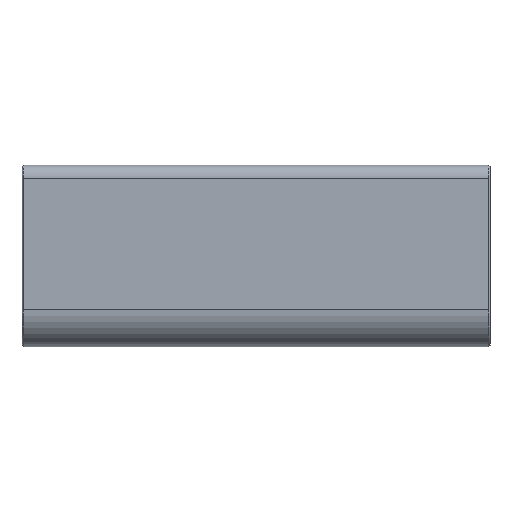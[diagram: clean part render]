
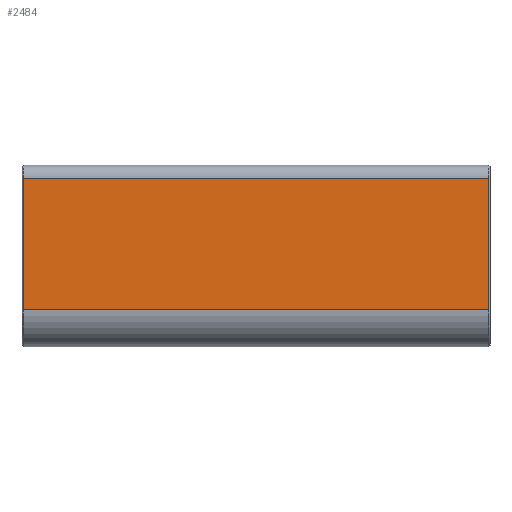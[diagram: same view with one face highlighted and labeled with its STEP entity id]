
A CAD part, top view. The second image highlights one B-rep face of the part: STEP entity #2484.
In plain terms, the highlighted planar face has unit normal (0, 0, 1).
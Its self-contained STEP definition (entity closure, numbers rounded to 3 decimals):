
#1119 = PLANE('',#1120);
#1120 = AXIS2_PLACEMENT_3D('',#1121,#1122,#1123);
#1121 = CARTESIAN_POINT('',(-44.4,-25.5,1.9));
#1122 = DIRECTION('',(0.707,0.,-0.707)
  );
#1123 = DIRECTION('',(0.,-1.,0.));
#1434 = PLANE('',#1435);
#1435 = AXIS2_PLACEMENT_3D('',#1436,#1437,#1438);
#1436 = CARTESIAN_POINT('',(44.4,-25.5,1.9));
#1437 = DIRECTION('',(0.707,0.,0.707));
#1438 = DIRECTION('',(0.,-1.,0.));
#1568 = CYLINDRICAL_SURFACE('',#1569,2.5);
#1569 = AXIS2_PLACEMENT_3D('',#1570,#1571,#1572);
#1570 = CARTESIAN_POINT('',(-44.5,-0.5,-0.5));
#1571 = DIRECTION('',(-1.,-0.,0.));
#1572 = DIRECTION('',(0.,1.,0.));
#1783 = VERTEX_POINT('',#1784);
#1784 = CARTESIAN_POINT('',(-44.3,-25.5,2.));
#1799 = CYLINDRICAL_SURFACE('',#1800,7.);
#1800 = AXIS2_PLACEMENT_3D('',#1801,#1802,#1803);
#1801 = CARTESIAN_POINT('',(-44.5,-25.5,-5.));
#1802 = DIRECTION('',(-1.,0.,0.));
#1803 = DIRECTION('',(0.,0.,1.));
#1893 = EDGE_CURVE('',#1783,#1894,#1896,.T.);
#1894 = VERTEX_POINT('',#1895);
#1895 = CARTESIAN_POINT('',(-44.3,-0.5,2.));
#1896 = SURFACE_CURVE('',#1897,(#1901,#1908),.PCURVE_S1.);
#1897 = LINE('',#1898,#1899);
#1898 = CARTESIAN_POINT('',(-44.3,-25.5,2.));
#1899 = VECTOR('',#1900,1.);
#1900 = DIRECTION('',(0.,1.,0.));
#1901 = PCURVE('',#1119,#1902);
#1902 = DEFINITIONAL_REPRESENTATION('',(#1903),#1907);
#1903 = LINE('',#1904,#1905);
#1904 = CARTESIAN_POINT('',(-0.,-0.141));
#1905 = VECTOR('',#1906,1.);
#1906 = DIRECTION('',(-1.,0.));
#1907 = ( GEOMETRIC_REPRESENTATION_CONTEXT(2) 
PARAMETRIC_REPRESENTATION_CONTEXT() REPRESENTATION_CONTEXT('2D SPACE',''
  ) );
#1908 = PCURVE('',#1909,#1914);
#1909 = PLANE('',#1910);
#1910 = AXIS2_PLACEMENT_3D('',#1911,#1912,#1913);
#1911 = CARTESIAN_POINT('',(-44.5,-25.5,2.));
#1912 = DIRECTION('',(0.,0.,1.));
#1913 = DIRECTION('',(0.,1.,0.));
#1914 = DEFINITIONAL_REPRESENTATION('',(#1915),#1919);
#1915 = LINE('',#1916,#1917);
#1916 = CARTESIAN_POINT('',(0.,-0.2));
#1917 = VECTOR('',#1918,1.);
#1918 = DIRECTION('',(1.,0.));
#1919 = ( GEOMETRIC_REPRESENTATION_CONTEXT(2) 
PARAMETRIC_REPRESENTATION_CONTEXT() REPRESENTATION_CONTEXT('2D SPACE',''
  ) );
#2103 = VERTEX_POINT('',#2104);
#2104 = CARTESIAN_POINT('',(44.3,-25.5,2.));
#2203 = EDGE_CURVE('',#2103,#2204,#2206,.T.);
#2204 = VERTEX_POINT('',#2205);
#2205 = CARTESIAN_POINT('',(44.3,-0.5,2.));
#2206 = SURFACE_CURVE('',#2207,(#2211,#2218),.PCURVE_S1.);
#2207 = LINE('',#2208,#2209);
#2208 = CARTESIAN_POINT('',(44.3,-25.5,2.));
#2209 = VECTOR('',#2210,1.);
#2210 = DIRECTION('',(0.,1.,0.));
#2211 = PCURVE('',#1434,#2212);
#2212 = DEFINITIONAL_REPRESENTATION('',(#2213),#2217);
#2213 = LINE('',#2214,#2215);
#2214 = CARTESIAN_POINT('',(-0.,-0.141));
#2215 = VECTOR('',#2216,1.);
#2216 = DIRECTION('',(-1.,0.));
#2217 = ( GEOMETRIC_REPRESENTATION_CONTEXT(2) 
PARAMETRIC_REPRESENTATION_CONTEXT() REPRESENTATION_CONTEXT('2D SPACE',''
  ) );
#2218 = PCURVE('',#1909,#2219);
#2219 = DEFINITIONAL_REPRESENTATION('',(#2220),#2224);
#2220 = LINE('',#2221,#2222);
#2221 = CARTESIAN_POINT('',(0.,-88.8));
#2222 = VECTOR('',#2223,1.);
#2223 = DIRECTION('',(1.,0.));
#2224 = ( GEOMETRIC_REPRESENTATION_CONTEXT(2) 
PARAMETRIC_REPRESENTATION_CONTEXT() REPRESENTATION_CONTEXT('2D SPACE',''
  ) );
#2409 = EDGE_CURVE('',#1894,#2204,#2410,.T.);
#2410 = SURFACE_CURVE('',#2411,(#2415,#2422),.PCURVE_S1.);
#2411 = LINE('',#2412,#2413);
#2412 = CARTESIAN_POINT('',(-44.5,-0.5,2.));
#2413 = VECTOR('',#2414,1.);
#2414 = DIRECTION('',(1.,0.,0.));
#2415 = PCURVE('',#1568,#2416);
#2416 = DEFINITIONAL_REPRESENTATION('',(#2417),#2421);
#2417 = LINE('',#2418,#2419);
#2418 = CARTESIAN_POINT('',(-1.571,0.));
#2419 = VECTOR('',#2420,1.);
#2420 = DIRECTION('',(-0.,-1.));
#2421 = ( GEOMETRIC_REPRESENTATION_CONTEXT(2) 
PARAMETRIC_REPRESENTATION_CONTEXT() REPRESENTATION_CONTEXT('2D SPACE',''
  ) );
#2422 = PCURVE('',#1909,#2423);
#2423 = DEFINITIONAL_REPRESENTATION('',(#2424),#2428);
#2424 = LINE('',#2425,#2426);
#2425 = CARTESIAN_POINT('',(25.,0.));
#2426 = VECTOR('',#2427,1.);
#2427 = DIRECTION('',(0.,-1.));
#2428 = ( GEOMETRIC_REPRESENTATION_CONTEXT(2) 
PARAMETRIC_REPRESENTATION_CONTEXT() REPRESENTATION_CONTEXT('2D SPACE',''
  ) );
#2434 = EDGE_CURVE('',#1783,#2103,#2435,.T.);
#2435 = SURFACE_CURVE('',#2436,(#2440,#2447),.PCURVE_S1.);
#2436 = LINE('',#2437,#2438);
#2437 = CARTESIAN_POINT('',(-44.5,-25.5,2.));
#2438 = VECTOR('',#2439,1.);
#2439 = DIRECTION('',(1.,0.,0.));
#2440 = PCURVE('',#1799,#2441);
#2441 = DEFINITIONAL_REPRESENTATION('',(#2442),#2446);
#2442 = LINE('',#2443,#2444);
#2443 = CARTESIAN_POINT('',(-0.,0.));
#2444 = VECTOR('',#2445,1.);
#2445 = DIRECTION('',(-0.,-1.));
#2446 = ( GEOMETRIC_REPRESENTATION_CONTEXT(2) 
PARAMETRIC_REPRESENTATION_CONTEXT() REPRESENTATION_CONTEXT('2D SPACE',''
  ) );
#2447 = PCURVE('',#1909,#2448);
#2448 = DEFINITIONAL_REPRESENTATION('',(#2449),#2453);
#2449 = LINE('',#2450,#2451);
#2450 = CARTESIAN_POINT('',(0.,0.));
#2451 = VECTOR('',#2452,1.);
#2452 = DIRECTION('',(0.,-1.));
#2453 = ( GEOMETRIC_REPRESENTATION_CONTEXT(2) 
PARAMETRIC_REPRESENTATION_CONTEXT() REPRESENTATION_CONTEXT('2D SPACE',''
  ) );
#2484 = ADVANCED_FACE('',(#2485),#1909,.T.);
#2485 = FACE_BOUND('',#2486,.T.);
#2486 = EDGE_LOOP('',(#2487,#2488,#2489,#2490));
#2487 = ORIENTED_EDGE('',*,*,#2434,.T.);
#2488 = ORIENTED_EDGE('',*,*,#2203,.T.);
#2489 = ORIENTED_EDGE('',*,*,#2409,.F.);
#2490 = ORIENTED_EDGE('',*,*,#1893,.F.);
